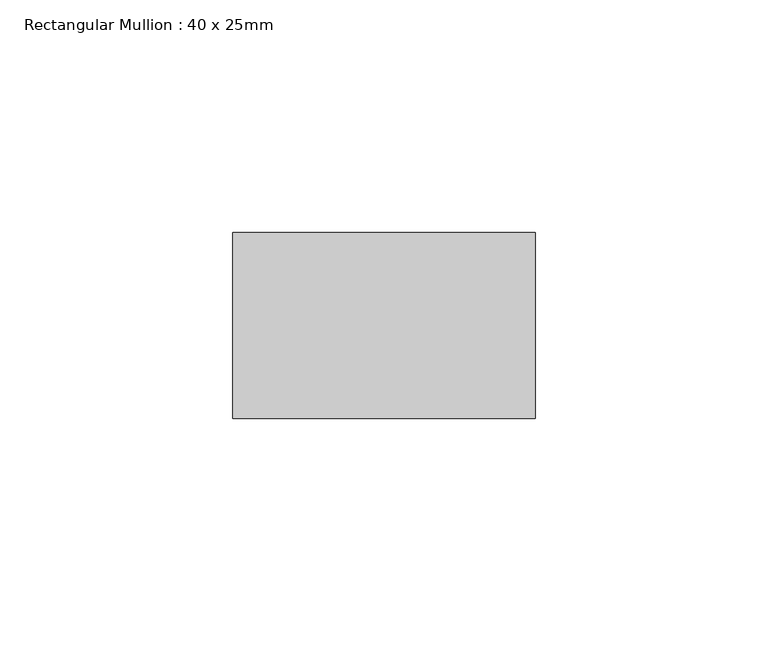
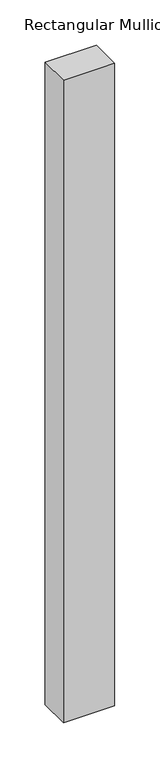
"""IFC4 building model written with IfcOpenShell, lengths in millimetres: member geometry, Rectangular Mullion : 40 x 25mm."""

import ifcopenshell
import ifcopenshell.guid

model = None  # the IFC model being written
_history = None  # IfcOwnerHistory: only IFC2X3 demands one
_inside = {}  # id of a spatial element -> (the spatial element, [elements in it])
_under = {}  # id of a project, library or spatial element -> (it, [spatial elements below it])
_declared = {}  # id of a project -> (the project, [libraries it declares])
_typed = {}  # id of a type object -> (the type object, [elements of that type])
_made_of = {}  # id of a material, layer set ... -> (it, [elements and type objects made of it])


def new_model(schema):
    """Start an empty IFC model of exactly this schema.

    Asked for "IFC4X3", IfcOpenShell would pick the latest addendum, in which some entities
    have other attributes; the version numbers below select the first issue.
    IFC2X3 requires an IfcOwnerHistory on every rooted entity: one is made here for all.
    """
    global model, _history
    if schema == "IFC4X3":
        model = ifcopenshell.file(schema_version=(4, 3, 0, 0))
    else:
        model = ifcopenshell.file(schema=schema)
    _inside.clear()
    _under.clear()
    _declared.clear()
    _typed.clear()
    _made_of.clear()
    _history = None
    if model.schema == "IFC2X3":
        org = make("IfcOrganization", Name="unknown")
        user = make(
            "IfcPersonAndOrganization",
            ThePerson=make("IfcPerson", FamilyName="unknown"),
            TheOrganization=org,
        )
        app = make(
            "IfcApplication",
            ApplicationDeveloper=org,
            Version="unknown",
            ApplicationFullName="unknown",
            ApplicationIdentifier="unknown",
        )
        _history = make(
            "IfcOwnerHistory",
            OwningUser=user,
            OwningApplication=app,
            ChangeAction="ADDED",
            CreationDate=0,
        )
    return model


def make(cls, **values):
    """One entity of the class cls with the attributes given. An attribute that is None is left unset."""
    return model.create_entity(
        cls, **{name: value for name, value in values.items() if value is not None}
    )


def rooted(cls, **values):
    """An entity with a GlobalId (a new one), such as an element, a storey or a relation."""
    return make(cls, GlobalId=ifcopenshell.guid.new(), OwnerHistory=_history, **values)


def si_unit(unit_type, name, prefix=None):
    """IfcSIUnit, for example si_unit("LENGTHUNIT", "METRE", prefix="MILLI")."""
    return make("IfcSIUnit", UnitType=unit_type, Prefix=prefix, Name=name)


def assignment(units):
    """IfcUnitAssignment: the units of a project."""
    return None if units is None else make("IfcUnitAssignment", Units=units)


def point(xyz):
    """IfcCartesianPoint."""
    return None if xyz is None else make("IfcCartesianPoint", Coordinates=xyz)


def direction(xyz):
    """IfcDirection."""
    return None if xyz is None else make("IfcDirection", DirectionRatios=xyz)


def frame(location, z_axis=None, x_axis=None):
    """IfcAxis2Placement3D, a coordinate frame: its origin and axes. An axis left out is left unset."""
    return make(
        "IfcAxis2Placement3D",
        Location=point(location),
        Axis=direction(z_axis),
        RefDirection=direction(x_axis),
    )


def origin():
    """The frame at (0, 0, 0) with its axes left unset."""
    return frame((0.0, 0.0, 0.0))


def place(relative_to, where):
    """IfcLocalPlacement: puts the frame where relative to a parent placement (None: the world)."""
    return make(
        "IfcLocalPlacement", PlacementRelTo=relative_to, RelativePlacement=where
    )


def context(
    kind, dimensions, precision=None, world=None, true_north=None, identifier=None
):
    """IfcGeometricRepresentationContext, for example the 3D "Model" context."""
    return make(
        "IfcGeometricRepresentationContext",
        ContextIdentifier=identifier,
        ContextType=kind,
        CoordinateSpaceDimension=dimensions,
        Precision=precision,
        WorldCoordinateSystem=world,
        TrueNorth=true_north,
    )


def project(units=None, contexts=None):
    """IfcProject with its units and contexts."""
    return rooted(
        "IfcProject",
        Name="project",
        RepresentationContexts=contexts,
        UnitsInContext=assignment(units),
    )


def spatial(cls, under=None, at=None, **own):
    """A site, building, storey or space (cls), placed at a placement, below another one or the project."""
    s = rooted(cls, ObjectPlacement=at, **own)
    if under is not None:
        _under.setdefault(under.id(), (under, []))[1].append(s)
    return s


def polyline(points):
    """IfcPolyline through the points."""
    return make("IfcPolyline", Points=[point(p) for p in points])


def outline(outer, holes=None, kind="AREA"):
    """IfcArbitraryClosedProfileDef: a profile drawn as a closed curve; with holes, ...WithVoids."""
    if holes is None:
        return make("IfcArbitraryClosedProfileDef", ProfileType=kind, OuterCurve=outer)
    return make(
        "IfcArbitraryProfileDefWithVoids",
        ProfileType=kind,
        OuterCurve=outer,
        InnerCurves=holes,
    )


def extrude(swept, where, along, depth):
    """IfcExtrudedAreaSolid: the profile swept, set in the frame where, extruded along a direction by depth."""
    return make(
        "IfcExtrudedAreaSolid",
        SweptArea=swept,
        Position=where,
        ExtrudedDirection=direction(along),
        Depth=depth,
    )


def shape(context_of_items, identifier, shape_type, items):
    """IfcShapeRepresentation: the items that make up one representation, for example the "Body"."""
    return make(
        "IfcShapeRepresentation",
        ContextOfItems=context_of_items,
        RepresentationIdentifier=identifier,
        RepresentationType=shape_type,
        Items=items,
    )


def source(mapping_origin, context_of_items, identifier, shape_type, items):
    """IfcRepresentationMap: a shape defined once, which mapped items show again and again."""
    return make(
        "IfcRepresentationMap",
        MappingOrigin=mapping_origin,
        MappedRepresentation=shape(context_of_items, identifier, shape_type, items),
    )


def transform(
    local_origin,
    x_axis=None,
    y_axis=None,
    z_axis=None,
    scale=None,
    scale2=None,
    scale3=None,
    uniform=True,
):
    """IfcCartesianTransformationOperator3D, or its non-uniform kind. x_axis, y_axis, z_axis: its Axis1, 2, 3."""
    if uniform:
        return make(
            "IfcCartesianTransformationOperator3D",
            Axis1=direction(x_axis),
            Axis2=direction(y_axis),
            LocalOrigin=point(local_origin),
            Scale=scale,
            Axis3=direction(z_axis),
        )
    return make(
        "IfcCartesianTransformationOperator3DnonUniform",
        Axis1=direction(x_axis),
        Axis2=direction(y_axis),
        LocalOrigin=point(local_origin),
        Scale=scale,
        Axis3=direction(z_axis),
        Scale2=scale2,
        Scale3=scale3,
    )


def mapped(mapping_source, mapping_target):
    """IfcMappedItem: shows the shape of a source again, moved by a transform."""
    return make(
        "IfcMappedItem", MappingSource=mapping_source, MappingTarget=mapping_target
    )


def made_of(thing, what):
    """Note that an element or type object is made of a material, layer set ...; save() writes the relation."""
    if what is not None:
        _made_of.setdefault(what.id(), (what, []))[1].append(thing)
    return thing


def element(
    cls,
    number,
    at=None,
    inside=None,
    cuts=None,
    type_object=None,
    material=None,
    context=None,
    identifier="Body",
    shape_type=None,
    held_by="IfcProductDefinitionShape",
    body=None,
    shapes=None,
    **own,
):
    """One element of the class cls, such as IfcWall. Its Tag is "e" and its number.

    at: its placement. inside: the storey or other place that contains it. cuts: it is an
    opening in that element (IfcRelVoidsElement). A single representation is given by context,
    identifier, shape_type and body (its items); several are given by shapes. held_by: the class
    of the entity that holds the representations. save() writes the other relations.
    """
    e = rooted(cls, Tag="e%d" % number, ObjectPlacement=at, **own)
    if body is not None:
        shapes = [shape(context, identifier, shape_type, body)]
    if shapes is not None:
        e.Representation = make(held_by, Representations=shapes)
    if inside is not None:
        _inside.setdefault(inside.id(), (inside, []))[1].append(e)
    if cuts is not None:
        rooted(
            "IfcRelVoidsElement", RelatingBuildingElement=cuts, RelatedOpeningElement=e
        )
    if type_object is not None:
        _typed.setdefault(type_object.id(), (type_object, []))[1].append(e)
    return made_of(e, material)


def aggregate(whole, parts):
    """IfcRelAggregates: a whole, such as a stair, and the parts it consists of."""
    return rooted("IfcRelAggregates", RelatingObject=whole, RelatedObjects=parts)


def save(model, path):
    """Write the relations noted so far, then the file.

    IfcRelAggregates (storeys below a building ...), IfcRelContainedInSpatialStructure (elements
    in a storey), IfcRelDefinesByType, IfcRelAssociatesMaterial and IfcRelDeclares: one each for
    every whole, place, type object, material and project.
    """
    for whole, parts in _under.values():
        aggregate(whole, parts)
    for where, things in _inside.values():
        rooted(
            "IfcRelContainedInSpatialStructure",
            RelatedElements=things,
            RelatingStructure=where,
        )
    for kind, things in _typed.values():
        rooted("IfcRelDefinesByType", RelatedObjects=things, RelatingType=kind)
    for what, things in _made_of.values():
        rooted("IfcRelAssociatesMaterial", RelatedObjects=things, RelatingMaterial=what)
    for by, libraries in _declared.values():
        rooted("IfcRelDeclares", RelatingContext=by, RelatedDefinitions=libraries)
    model.write(path)


def rectangular_mullion_40_x_25mm_c6eeef18(model_context):
    return source(origin(), model_context, "Body", "SweptSolid", [
        extrude(outline(polyline([(0.0, -20.0), (0.0, -60.0), (-65.0, -60.0), (-65.0, -20.0), (0.0, -20.0)])), frame((0.0, 0.0, -862.8119015), z_axis=(0.0, 0.0, 1.0), x_axis=(1.0, 0.0, 0.0)), (0.0, 0.0, 1.0), 862.8119015),
    ])


if __name__ == "__main__":
    model = new_model("IFC4")
    model_context = context("Model", 3, world=origin())
    ifc_project = project(units=[si_unit("LENGTHUNIT", "METRE", prefix="MILLI")], contexts=[model_context])
    site = spatial("IfcSite", under=ifc_project)
    building = spatial("IfcBuilding", under=site)
    placement = place(None, origin())
    rectangular_mullion_40_x_25mm_shape = rectangular_mullion_40_x_25mm_c6eeef18(model_context)
    element("IfcMember", 1, ObjectType="Rectangular Mullion : 40 x 25mm", at=placement, inside=building, context=model_context, shape_type="MappedRepresentation", body=[
        mapped(rectangular_mullion_40_x_25mm_shape, transform((0.0, 0.0, 0.0), x_axis=(1.0, 0.0, 0.0), y_axis=(0.0, 1.0, 0.0), z_axis=(0.0, 0.0, 1.0))),
    ])
    save(model, "model.ifc")
